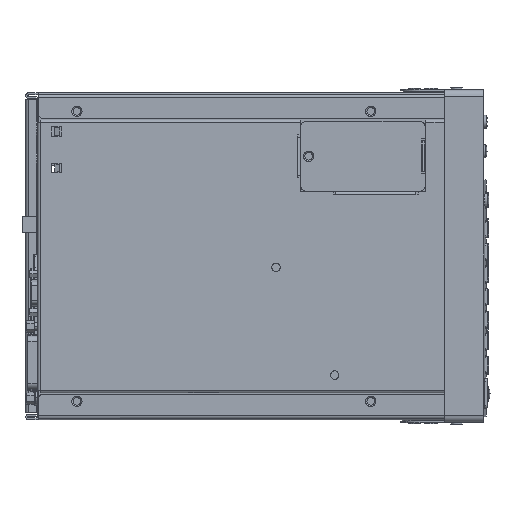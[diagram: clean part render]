
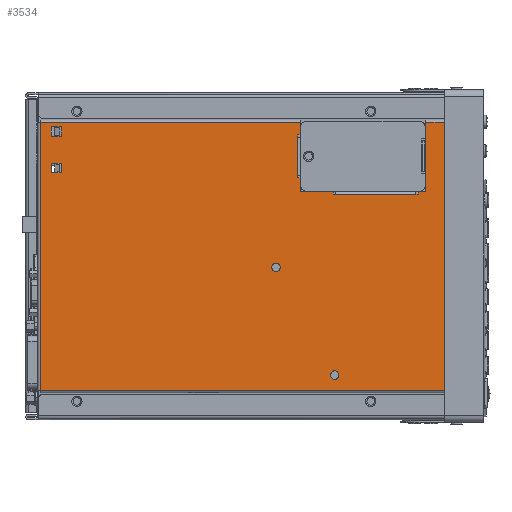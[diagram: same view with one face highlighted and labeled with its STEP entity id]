
A CAD part, front view. The second image highlights one B-rep face of the part: STEP entity #3534.
In plain terms, the highlighted planar face has unit normal (0, -1, 0).
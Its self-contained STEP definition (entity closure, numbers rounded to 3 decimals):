
#904=DIRECTION('',(0.,0.,-1.));
#905=VECTOR('',#904,0.061);
#906=CARTESIAN_POINT('',(7.48,-0.06,1.65));
#907=LINE('',#906,#905);
#908=DIRECTION('',(1.,0.,0.));
#909=VECTOR('',#908,0.06);
#910=CARTESIAN_POINT('',(7.48,-0.06,1.589));
#911=LINE('',#910,#909);
#912=DIRECTION('',(1.,0.,0.));
#913=VECTOR('',#912,2.05);
#914=CARTESIAN_POINT('',(7.54,-0.06,1.589));
#915=LINE('',#914,#913);
#916=DIRECTION('',(1.,0.,0.));
#917=VECTOR('',#916,0.06);
#918=CARTESIAN_POINT('',(9.59,-0.06,1.589));
#919=LINE('',#918,#917);
#920=DIRECTION('',(0.,0.,1.));
#921=VECTOR('',#920,0.061);
#922=CARTESIAN_POINT('',(9.65,-0.06,1.589));
#923=LINE('',#922,#921);
#924=DIRECTION('',(1.,0.,0.));
#925=VECTOR('',#924,0.19);
#926=CARTESIAN_POINT('',(9.65,-0.06,1.65));
#927=LINE('',#926,#925);
#928=DIRECTION('',(0.,0.,1.));
#929=VECTOR('',#928,1.77);
#930=CARTESIAN_POINT('',(9.84,-0.06,1.65));
#931=LINE('',#930,#929);
#932=DIRECTION('',(1.,0.,0.));
#933=VECTOR('',#932,0.48);
#934=CARTESIAN_POINT('',(9.84,-0.06,3.42));
#935=LINE('',#934,#933);
#936=DIRECTION('',(0.,0.,-1.));
#937=VECTOR('',#936,6.84);
#938=CARTESIAN_POINT('',(10.32,-0.06,3.42));
#939=LINE('',#938,#937);
#940=DIRECTION('',(-1.,0.,0.));
#941=VECTOR('',#940,10.319);
#942=CARTESIAN_POINT('',(10.32,-0.06,-3.42));
#943=LINE('',#942,#941);
#944=DIRECTION('',(0.,0.,1.));
#945=VECTOR('',#944,6.84);
#946=CARTESIAN_POINT('',(0.001,-0.06,-3.42));
#947=LINE('',#946,#945);
#948=DIRECTION('',(0.,0.,-1.));
#949=VECTOR('',#948,0.97);
#950=CARTESIAN_POINT('',(6.575,-0.06,3.04));
#951=LINE('',#950,#949);
#952=DIRECTION('',(0.,0.,-1.));
#953=VECTOR('',#952,0.06);
#954=CARTESIAN_POINT('',(6.575,-0.06,2.07));
#955=LINE('',#954,#953);
#956=DIRECTION('',(1.,0.,0.));
#957=VECTOR('',#956,0.065);
#958=CARTESIAN_POINT('',(6.575,-0.06,2.01));
#959=LINE('',#958,#957);
#960=DIRECTION('',(0.,0.,-1.));
#961=VECTOR('',#960,0.36);
#962=CARTESIAN_POINT('',(6.64,-0.06,2.01));
#963=LINE('',#962,#961);
#964=DIRECTION('',(1.,0.,0.));
#965=VECTOR('',#964,0.84);
#966=CARTESIAN_POINT('',(6.64,-0.06,1.65));
#967=LINE('',#966,#965);
#968=CARTESIAN_POINT('',(6.02,-0.06,-0.28));
#969=DIRECTION('',(0.,-1.,0.));
#970=DIRECTION('',(1.,0.,0.));
#971=AXIS2_PLACEMENT_3D('',#968,#969,#970);
#973=CARTESIAN_POINT('',(6.02,-0.06,-0.28));
#974=DIRECTION('',(0.,-1.,0.));
#975=DIRECTION('',(-1.,0.,0.));
#976=AXIS2_PLACEMENT_3D('',#973,#974,#975);
#978=CARTESIAN_POINT('',(7.52,-0.06,-3.03));
#979=DIRECTION('',(0.,-1.,0.));
#980=DIRECTION('',(1.,0.,0.));
#981=AXIS2_PLACEMENT_3D('',#978,#979,#980);
#983=CARTESIAN_POINT('',(7.52,-0.06,-3.03));
#984=DIRECTION('',(0.,-1.,0.));
#985=DIRECTION('',(-1.,0.,0.));
#986=AXIS2_PLACEMENT_3D('',#983,#984,#985);
#992=DIRECTION('',(-1.,0.,0.));
#993=VECTOR('',#992,6.639);
#994=CARTESIAN_POINT('',(6.64,-0.06,3.42));
#995=LINE('',#994,#993);
#1000=DIRECTION('',(0.,0.,1.));
#1001=VECTOR('',#1000,0.32);
#1002=CARTESIAN_POINT('',(6.64,-0.06,3.1));
#1003=LINE('',#1002,#1001);
#1013=DIRECTION('',(1.,0.,0.));
#1014=VECTOR('',#1013,0.065);
#1015=CARTESIAN_POINT('',(6.575,-0.06,3.1));
#1016=LINE('',#1015,#1014);
#1025=DIRECTION('',(0.,0.,1.));
#1026=VECTOR('',#1025,0.06);
#1027=CARTESIAN_POINT('',(6.575,-0.06,3.04));
#1028=LINE('',#1027,#1026);
#1082=DIRECTION('',(0.,0.,-1.));
#1083=VECTOR('',#1082,0.25);
#1084=CARTESIAN_POINT('',(0.542,-0.06,3.312));
#1085=LINE('',#1084,#1083);
#1090=DIRECTION('',(1.,0.,0.));
#1091=VECTOR('',#1090,0.25);
#1092=CARTESIAN_POINT('',(0.292,-0.06,3.312));
#1093=LINE('',#1092,#1091);
#1102=DIRECTION('',(0.,0.,1.));
#1103=VECTOR('',#1102,0.25);
#1104=CARTESIAN_POINT('',(0.292,-0.06,3.062));
#1105=LINE('',#1104,#1103);
#1118=DIRECTION('',(-1.,0.,0.));
#1119=VECTOR('',#1118,0.25);
#1120=CARTESIAN_POINT('',(0.542,-0.06,3.062));
#1121=LINE('',#1120,#1119);
#1130=DIRECTION('',(1.,0.,0.));
#1131=VECTOR('',#1130,0.25);
#1132=CARTESIAN_POINT('',(0.292,-0.06,2.382));
#1133=LINE('',#1132,#1131);
#1138=DIRECTION('',(0.,0.,1.));
#1139=VECTOR('',#1138,0.25);
#1140=CARTESIAN_POINT('',(0.292,-0.06,2.132));
#1141=LINE('',#1140,#1139);
#1150=DIRECTION('',(-1.,0.,0.));
#1151=VECTOR('',#1150,0.25);
#1152=CARTESIAN_POINT('',(0.542,-0.06,2.132));
#1153=LINE('',#1152,#1151);
#1166=DIRECTION('',(0.,0.,-1.));
#1167=VECTOR('',#1166,0.25);
#1168=CARTESIAN_POINT('',(0.542,-0.06,2.382));
#1169=LINE('',#1168,#1167);
#2056=CARTESIAN_POINT('',(0.001,-0.06,-3.42));
#2057=VERTEX_POINT('',#2056);
#2062=CARTESIAN_POINT('',(0.001,-0.06,3.42));
#2063=VERTEX_POINT('',#2062);
#2074=CARTESIAN_POINT('',(6.575,-0.06,3.04));
#2075=CARTESIAN_POINT('',(6.575,-0.06,2.07));
#2076=VERTEX_POINT('',#2074);
#2077=VERTEX_POINT('',#2075);
#2082=CARTESIAN_POINT('',(6.575,-0.06,2.01));
#2083=VERTEX_POINT('',#2082);
#2086=CARTESIAN_POINT('',(6.64,-0.06,2.01));
#2087=VERTEX_POINT('',#2086);
#2090=CARTESIAN_POINT('',(6.64,-0.06,1.65));
#2091=VERTEX_POINT('',#2090);
#2094=CARTESIAN_POINT('',(7.48,-0.06,1.65));
#2095=VERTEX_POINT('',#2094);
#2098=CARTESIAN_POINT('',(7.48,-0.06,1.589));
#2099=VERTEX_POINT('',#2098);
#2102=CARTESIAN_POINT('',(7.54,-0.06,1.589));
#2103=VERTEX_POINT('',#2102);
#2108=CARTESIAN_POINT('',(9.59,-0.06,1.589));
#2109=VERTEX_POINT('',#2108);
#2114=CARTESIAN_POINT('',(9.65,-0.06,1.589));
#2115=VERTEX_POINT('',#2114);
#2118=CARTESIAN_POINT('',(9.65,-0.06,1.65));
#2119=VERTEX_POINT('',#2118);
#2124=CARTESIAN_POINT('',(9.84,-0.06,3.42));
#2125=VERTEX_POINT('',#2124);
#2126=CARTESIAN_POINT('',(9.84,-0.06,1.65));
#2127=VERTEX_POINT('',#2126);
#2130=CARTESIAN_POINT('',(10.32,-0.06,3.42));
#2131=VERTEX_POINT('',#2130);
#2134=CARTESIAN_POINT('',(10.32,-0.06,-3.42));
#2135=VERTEX_POINT('',#2134);
#2146=CARTESIAN_POINT('',(6.575,-0.06,3.1));
#2147=VERTEX_POINT('',#2146);
#2148=CARTESIAN_POINT('',(6.127,-0.06,-0.28));
#2149=CARTESIAN_POINT('',(5.914,-0.06,-0.28));
#2150=VERTEX_POINT('',#2148);
#2151=VERTEX_POINT('',#2149);
#2152=CARTESIAN_POINT('',(7.627,-0.06,-3.03));
#2153=CARTESIAN_POINT('',(7.414,-0.06,-3.03));
#2154=VERTEX_POINT('',#2152);
#2155=VERTEX_POINT('',#2153);
#2160=CARTESIAN_POINT('',(6.64,-0.06,3.42));
#2161=VERTEX_POINT('',#2160);
#2164=CARTESIAN_POINT('',(6.64,-0.06,3.1));
#2165=VERTEX_POINT('',#2164);
#2182=CARTESIAN_POINT('',(0.542,-0.06,3.312));
#2183=VERTEX_POINT('',#2182);
#2184=CARTESIAN_POINT('',(0.542,-0.06,3.062));
#2185=VERTEX_POINT('',#2184);
#2188=CARTESIAN_POINT('',(0.292,-0.06,3.312));
#2189=VERTEX_POINT('',#2188);
#2192=CARTESIAN_POINT('',(0.292,-0.06,3.062));
#2193=VERTEX_POINT('',#2192);
#2198=CARTESIAN_POINT('',(0.292,-0.06,2.382));
#2199=CARTESIAN_POINT('',(0.542,-0.06,2.382));
#2200=VERTEX_POINT('',#2198);
#2201=VERTEX_POINT('',#2199);
#2204=CARTESIAN_POINT('',(0.292,-0.06,2.132));
#2205=VERTEX_POINT('',#2204);
#2208=CARTESIAN_POINT('',(0.542,-0.06,2.132));
#2209=VERTEX_POINT('',#2208);
#3471=CARTESIAN_POINT('',(5.16,-0.06,0.));
#3472=DIRECTION('',(0.,1.,0.));
#3473=DIRECTION('',(1.,0.,0.));
#3474=AXIS2_PLACEMENT_3D('',#3471,#3472,#3473);
#3475=PLANE('',#3474);
#3476=ORIENTED_EDGE('',*,*,#3267,.T.);
#3477=ORIENTED_EDGE('',*,*,#3281,.T.);
#3478=ORIENTED_EDGE('',*,*,#3307,.T.);
#3479=ORIENTED_EDGE('',*,*,#3333,.T.);
#3480=ORIENTED_EDGE('',*,*,#3347,.T.);
#3481=ORIENTED_EDGE('',*,*,#3361,.T.);
#3482=ORIENTED_EDGE('',*,*,#3375,.T.);
#3483=ORIENTED_EDGE('',*,*,#3389,.T.);
#3484=ORIENTED_EDGE('',*,*,#3403,.T.);
#3485=ORIENTED_EDGE('',*,*,#3417,.T.);
#3486=ORIENTED_EDGE('',*,*,#3465,.T.);
#3488=ORIENTED_EDGE('',*,*,#3487,.F.);
#3490=ORIENTED_EDGE('',*,*,#3489,.F.);
#3492=ORIENTED_EDGE('',*,*,#3491,.F.);
#3494=ORIENTED_EDGE('',*,*,#3493,.F.);
#3495=ORIENTED_EDGE('',*,*,#3184,.T.);
#3496=ORIENTED_EDGE('',*,*,#3211,.T.);
#3497=ORIENTED_EDGE('',*,*,#3225,.T.);
#3498=ORIENTED_EDGE('',*,*,#3239,.T.);
#3499=ORIENTED_EDGE('',*,*,#3253,.T.);
#3500=EDGE_LOOP('',(#3476,#3477,#3478,#3479,#3480,#3481,#3482,#3483,#3484,#3485,
#3486,#3488,#3490,#3492,#3494,#3495,#3496,#3497,#3498,#3499));
#3501=FACE_OUTER_BOUND('',#3500,.F.);
#3503=ORIENTED_EDGE('',*,*,#3502,.T.);
#3505=ORIENTED_EDGE('',*,*,#3504,.T.);
#3506=EDGE_LOOP('',(#3503,#3505));
#3507=FACE_BOUND('',#3506,.F.);
#3509=ORIENTED_EDGE('',*,*,#3508,.T.);
#3511=ORIENTED_EDGE('',*,*,#3510,.T.);
#3512=EDGE_LOOP('',(#3509,#3511));
#3513=FACE_BOUND('',#3512,.F.);
#3515=ORIENTED_EDGE('',*,*,#3514,.F.);
#3517=ORIENTED_EDGE('',*,*,#3516,.F.);
#3519=ORIENTED_EDGE('',*,*,#3518,.F.);
#3521=ORIENTED_EDGE('',*,*,#3520,.F.);
#3522=EDGE_LOOP('',(#3515,#3517,#3519,#3521));
#3523=FACE_BOUND('',#3522,.F.);
#3525=ORIENTED_EDGE('',*,*,#3524,.F.);
#3527=ORIENTED_EDGE('',*,*,#3526,.F.);
#3529=ORIENTED_EDGE('',*,*,#3528,.F.);
#3531=ORIENTED_EDGE('',*,*,#3530,.F.);
#3532=EDGE_LOOP('',(#3525,#3527,#3529,#3531));
#3533=FACE_BOUND('',#3532,.F.);
#3534=ADVANCED_FACE('',(#3501,#3507,#3513,#3523,#3533),#3475,.F.);
#972=CIRCLE('',#971,0.107);
#977=CIRCLE('',#976,0.107);
#982=CIRCLE('',#981,0.107);
#987=CIRCLE('',#986,0.107);
#3184=EDGE_CURVE('',#2076,#2077,#951,.T.);
#3211=EDGE_CURVE('',#2077,#2083,#955,.T.);
#3225=EDGE_CURVE('',#2083,#2087,#959,.T.);
#3239=EDGE_CURVE('',#2087,#2091,#963,.T.);
#3253=EDGE_CURVE('',#2091,#2095,#967,.T.);
#3267=EDGE_CURVE('',#2095,#2099,#907,.T.);
#3281=EDGE_CURVE('',#2099,#2103,#911,.T.);
#3307=EDGE_CURVE('',#2103,#2109,#915,.T.);
#3333=EDGE_CURVE('',#2109,#2115,#919,.T.);
#3347=EDGE_CURVE('',#2115,#2119,#923,.T.);
#3361=EDGE_CURVE('',#2119,#2127,#927,.T.);
#3375=EDGE_CURVE('',#2127,#2125,#931,.T.);
#3389=EDGE_CURVE('',#2125,#2131,#935,.T.);
#3403=EDGE_CURVE('',#2131,#2135,#939,.T.);
#3417=EDGE_CURVE('',#2135,#2057,#943,.T.);
#3465=EDGE_CURVE('',#2057,#2063,#947,.T.);
#3487=EDGE_CURVE('',#2161,#2063,#995,.T.);
#3489=EDGE_CURVE('',#2165,#2161,#1003,.T.);
#3491=EDGE_CURVE('',#2147,#2165,#1016,.T.);
#3493=EDGE_CURVE('',#2076,#2147,#1028,.T.);
#3502=EDGE_CURVE('',#2150,#2151,#972,.T.);
#3504=EDGE_CURVE('',#2151,#2150,#977,.T.);
#3508=EDGE_CURVE('',#2154,#2155,#982,.T.);
#3510=EDGE_CURVE('',#2155,#2154,#987,.T.);
#3514=EDGE_CURVE('',#2183,#2185,#1085,.T.);
#3516=EDGE_CURVE('',#2189,#2183,#1093,.T.);
#3518=EDGE_CURVE('',#2193,#2189,#1105,.T.);
#3520=EDGE_CURVE('',#2185,#2193,#1121,.T.);
#3524=EDGE_CURVE('',#2200,#2201,#1133,.T.);
#3526=EDGE_CURVE('',#2205,#2200,#1141,.T.);
#3528=EDGE_CURVE('',#2209,#2205,#1153,.T.);
#3530=EDGE_CURVE('',#2201,#2209,#1169,.T.);
